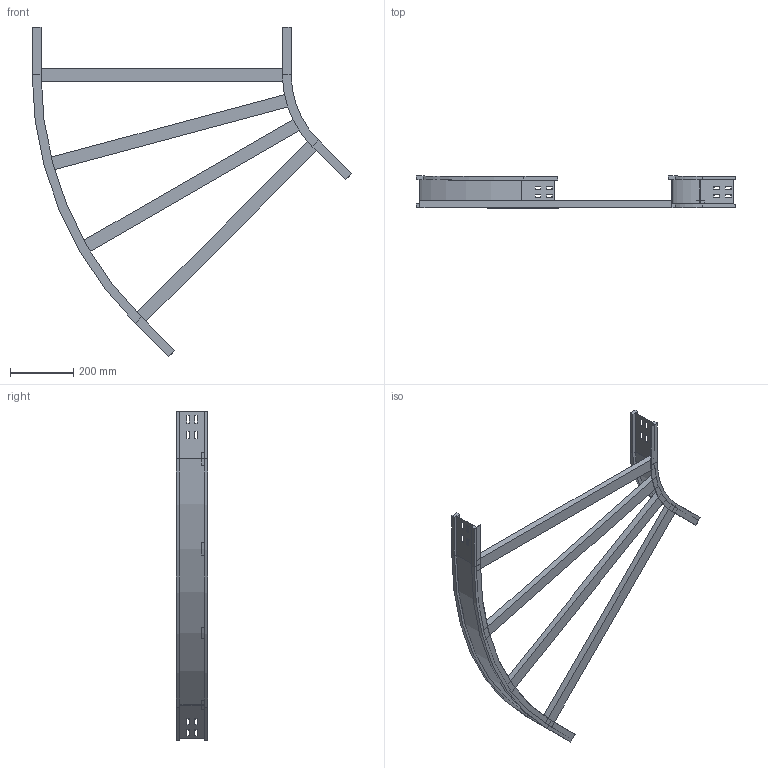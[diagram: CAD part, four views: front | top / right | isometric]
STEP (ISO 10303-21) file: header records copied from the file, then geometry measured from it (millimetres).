
FILE_DESCRIPTION (( 'STEP AP214' ), '1' );
FILE_NAME ('11S3D800.step', '2025-02-21T16:03:25', ( '' ), ( '' ), 'SwSTEP 2.0', 'SolidWorks 2023', '' );
FILE_SCHEMA (( 'AUTOMOTIVE_DESIGN' ));
Length unit declared in the file: millimetre
Products named in the file (4): TRAVERSINO_800; LONGH.ESTERNO 45°_H100_R300+800; 11S3D800; LONGH.INTERNO 45°_H100_R300
Assembly tree (6 placements, depth 2):
  11S3D800
    LONGH.INTERNO 45°_H100_R300
    LONGH.ESTERNO 45°_H100_R300+800
    TRAVERSINO_800  x4
Bounding box: 1009.3 x 100 x 1040.25 mm (x, y, z)
Volume: 3478070.3 mm3; surface area: 893549.6 mm2
Topology: 6 solids, 6 shells, 164 faces, 408 edges, 256 vertices
Faces by surface type: plane 152, cylinder 12
Entity records: 4485 total; most frequent: CARTESIAN_POINT 759, ORIENTED_EDGE 744, DIRECTION 706, EDGE_CURVE 372, LINE 348, VECTOR 348, VERTEX_POINT 232, AXIS2_PLACEMENT_3D 179
